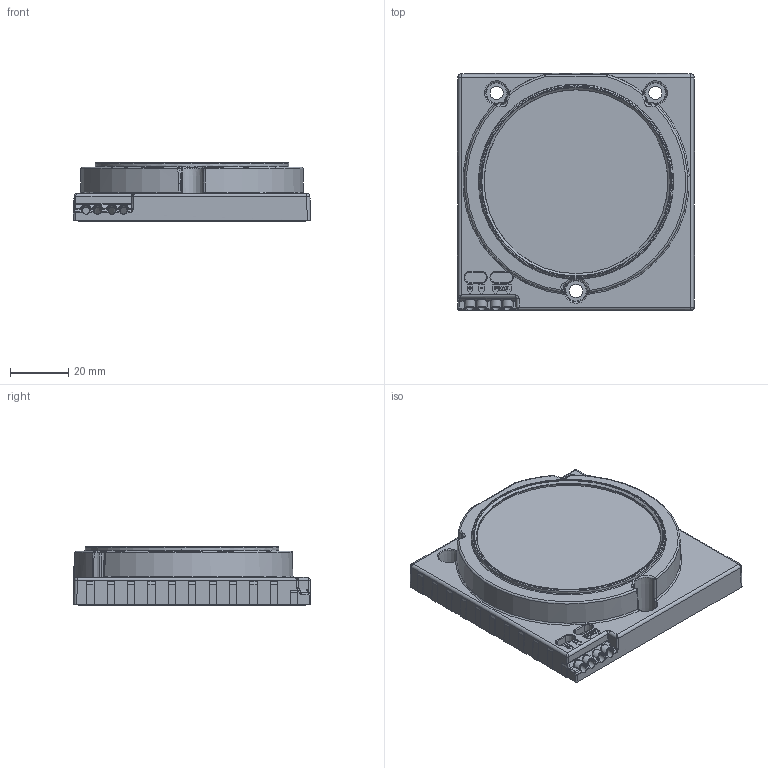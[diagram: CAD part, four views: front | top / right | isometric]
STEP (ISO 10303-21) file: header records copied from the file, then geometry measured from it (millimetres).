
FILE_DESCRIPTION((''),'2;1');
FILE_NAME('16207804_DLE_G4_DC_ENHANCED','2017-02-02T',('bernhard.fink'),(''),'PRO/ENGINEER BY PARAMETRIC TECHNOLOGY CORPORATION, 2015200','PRO/ENGINEER BY PARAMETRIC TECHNOLOGY CORPORATION, 2015200','');
FILE_SCHEMA(('AUTOMOTIVE_DESIGN { 1 0 10303 214 1 1 1 1 }'));
Products named in the file (1): 16207804_DLE_G4_DC_ENHANCED
Bounding box: 81.5 x 81.5 x 20 mm (x, y, z)
Volume: 38170.1 mm3; surface area: 41716.1 mm2
Topology: 1 solids, 2 shells, 1075 faces, 2603 edges, 1533 vertices
Faces by surface type: plane 354, cylinder 291, bspline 204, torus 98, sphere 65, cone 56, revolution 7
Entity records: 56589 total; most frequent: CARTESIAN_POINT 17545, ORIENTED_EDGE 5202, DIRECTION 4381, PRESENTATION_STYLE_ASSIGNMENT 3682, STYLED_ITEM 2609, CURVE_STYLE 2608, EDGE_CURVE 2601, AXIS2_PLACEMENT_3D 1577
